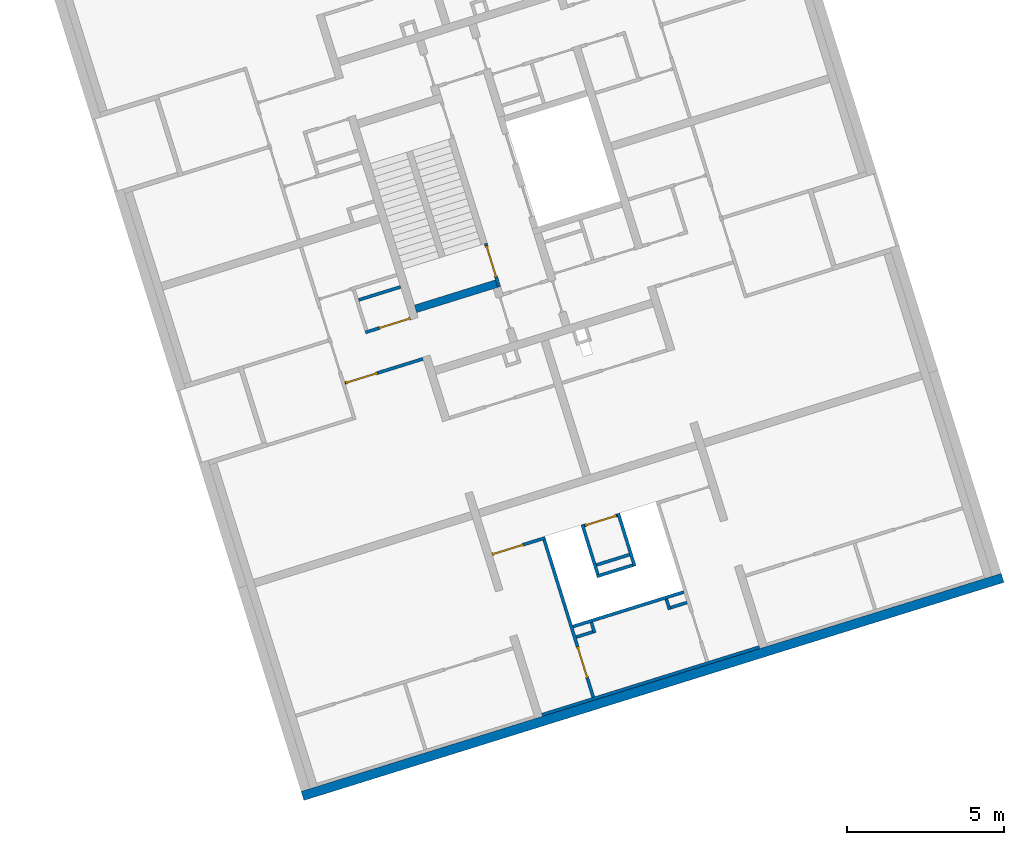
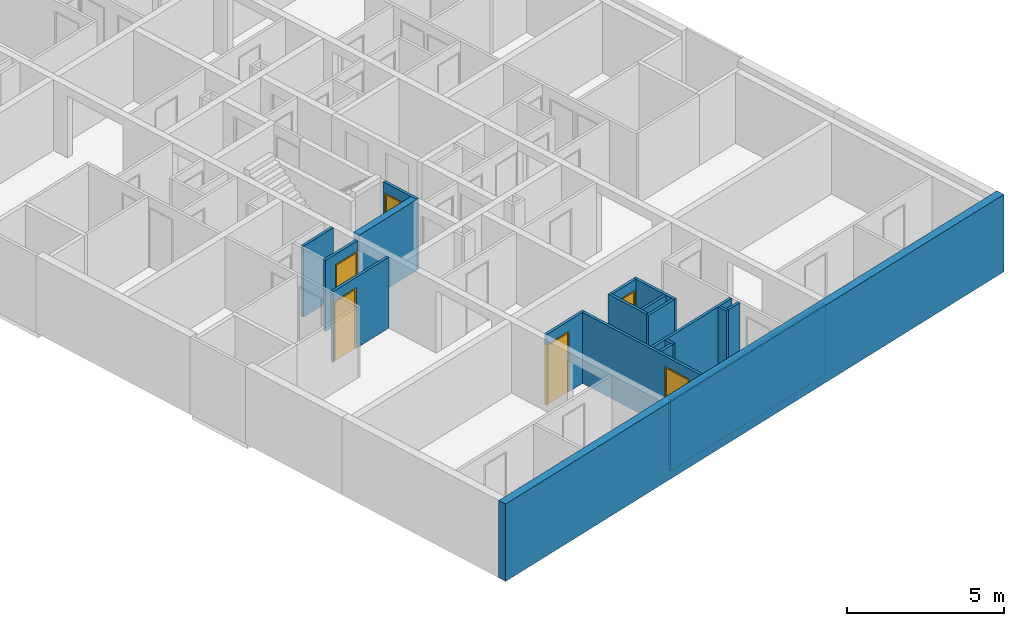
# One storey, part 2 of 12: 19 walls, 6 doors, 7 openings.
"""IFC4 building model written with IfcOpenShell, lengths in metres."""

from ifc_helpers import new_model, entity, si_unit, converted_unit, direction, frame, origin, place, context, subcontext, project, spatial, indexed_curve, outline, extrude, polygons, source, transform, mapped, material, constituent, constituent_set, type_object, type_shapes, element, fill, save


model = new_model("IFC4")

# Units and contexts
model_context = context("Model", 3, precision=1e-05, world=origin(), true_north=direction((6.12323399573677e-17, 1.0)))
body_context = subcontext(model_context, "Body", "Model", "MODEL_VIEW")
ifc_project = project(units=[si_unit("LENGTHUNIT", "METRE"), si_unit("AREAUNIT", "SQUARE_METRE"), converted_unit("PLANEANGLEUNIT", "DEGREE", entity("IfcPlaneAngleMeasure", 0.0174532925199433), si_unit("PLANEANGLEUNIT", "RADIAN"), dimensions=[0, 0, 0, 0, 0, 0, 0]), si_unit("VOLUMEUNIT", "CUBIC_METRE")], contexts=[model_context])

# Site, building, storey
site_placement = place(None, frame((13.1347999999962, 11.9886000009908, 0.0), z_axis=(0.0, 0.0, 1.0), x_axis=(0.954770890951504, 0.297342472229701, 0.0)))
site = spatial("IfcSite", under=ifc_project, at=site_placement, Name="Schiehaven", CompositionType="ELEMENT")
building_placement = place(site_placement, origin())
building = spatial("IfcBuilding", under=site, at=building_placement, Name="VORM huis", CompositionType="ELEMENT")
storey_placement = place(building_placement, frame((0.0, 0.0, 3.9)))
storey = spatial("IfcBuildingStorey", under=building, at=storey_placement, Name="01 eerste verdieping", CompositionType="ELEMENT", Elevation=3.9)

# Walls
ifc_material_1 = material(Name="ntb_ntb_ntb", Category="Miscellaneous")
wall_type_1 = type_object("IfcWallType", Name="Basic Wall:21_WA_gevel_binnenspouwwand 100mm_gen", PredefinedType="STANDARD")
wall_1_placement = place(storey_placement, frame((65.1250000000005, 0.424999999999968, 0.0)))
element("IfcWall", 1, at=wall_1_placement, inside=storey, type_object=wall_type_1, material=ifc_material_1, Name="Binnenspouwblad", ObjectType="Wand", PredefinedType="NOTDEFINED", context=body_context, shape_type="SweptSolid", body=[
    extrude(outline(indexed_curve([(7.24999999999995, 0.05), (3.39999654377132e-16, 0.05), (-3.39999654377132e-16, -0.05), (7.24999999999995, -0.05), (7.24999999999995, 0.05)], self_intersect=False)), origin(), (0.0, 0.0, 1.0), 2.75),
])
wall_type_2 = type_object("IfcWallType", Name="Basic Wall: 300mm_gen", PredefinedType="STANDARD")
wall_2_placement = place(storey_placement, frame((57.0750000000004, 0.225000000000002, 0.0)))
element("IfcWall", 2, at=wall_2_placement, inside=storey, type_object=wall_type_2, material=ifc_material_1, Name="Gevelwand", ObjectType="Wand", PredefinedType="NOTDEFINED", context=body_context, shape_type="SweptSolid", body=[
    extrude(outline(indexed_curve([(23.3500000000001, 0.15), (3.95309745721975e-16, 0.15), (-3.95309745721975e-16, -0.15), (23.3500000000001, -0.15), (23.3500000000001, 0.15)], self_intersect=False)), origin(), (0.0, 0.0, 1.0), 3.0),
])
wall_type_3 = type_object("IfcWallType", Name="Basic Wall:22_WA_afbouw_binnenwand 250mm_gen", PredefinedType="STANDARD")
wall_3_placement = place(storey_placement, frame((65.1250000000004, 13.965, 0.0)))
element("IfcWall", 3, at=wall_3_placement, inside=storey, type_object=wall_type_3, material=ifc_material_1, Name="Binnenwand", ObjectType="Wand", PredefinedType="NOTDEFINED", context=body_context, shape_type="SweptSolid", body=[
    extrude(outline(indexed_curve([(2.70000000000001, 0.125), (3.72202764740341e-16, 0.125), (-3.72202764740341e-16, -0.125), (2.70000000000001, -0.124999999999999), (2.70000000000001, 0.125)], self_intersect=False)), origin(), (0.0, 0.0, 1.0), 2.75),
])

# Wall, opening, door
wall_type_4 = type_object("IfcWallType", Name="Basic Wall:22_WA_afbouw_binnenwand 100mm_gen", PredefinedType="STANDARD")
wall_4_placement = place(storey_placement, frame((67.8750000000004, 13.84, 0.0), z_axis=(0.0, 0.0, 1.0), x_axis=(0.0, 1.0, 0.0)))
wall_4 = element("IfcWall", 4, at=wall_4_placement, inside=storey, type_object=wall_type_4, material=ifc_material_1, Name="Binnenwand", ObjectType="Wand", PredefinedType="NOTDEFINED", context=body_context, shape_type="Tessellation", body=[
    polygons([(1.44999999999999, -0.0500000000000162, -5.41433564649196e-16), (1.44999999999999, -0.0500000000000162, 2.75), (0.0, -0.0500000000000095, 2.75), (0.0, -0.0500000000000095, -5.41433564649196e-16), (0.324999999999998, -0.050000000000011, -5.41433564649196e-16), (0.324999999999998, -0.050000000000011, 2.34999999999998), (1.375, -0.0500000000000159, 2.34999999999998), (1.375, -0.0500000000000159, -5.41433564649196e-16), (1.44999999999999, 0.049999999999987, 2.75), (1.44999999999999, 0.049999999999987, -5.41433564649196e-16), (1.375, 0.0499999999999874, -5.41433564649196e-16), (1.37499999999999, 0.0499999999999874, 2.34999999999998), (0.324999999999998, 0.0499999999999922, 2.34999999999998), (0.324999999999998, 0.0499999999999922, -5.41433564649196e-16), (0.249999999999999, 0.0499999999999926, 0.0), (0.0, 0.0499999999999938, -5.41433564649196e-16), (0.0, 0.0499999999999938, 2.75), (0.249999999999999, 0.0499999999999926, 2.75)], [[[1, 2, 3, 4, 5, 6, 7, 8]], [[9, 10, 11, 12, 13, 14, 15, 16, 17, 18]], [[4, 16, 15, 14, 5]], [[2, 1, 10, 9]], [[3, 2, 9, 18, 17]], [[13, 6, 5, 14]], [[7, 12, 11, 8]], [[6, 13, 12, 7]], [[4, 3, 17, 16]], [[10, 1, 8, 11]]], closed=True),
])
opening_1_placement = place(wall_4_placement, frame((0.324999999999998, -0.0500000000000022, 0.0)))
opening_1 = element("IfcOpeningElement", 5, at=opening_1_placement, cuts=wall_4, Name="Vluchtdeur", PredefinedType="OPENING", context=body_context, shape_type="SweptSolid", body=[
    extrude(outline(indexed_curve([(2.34999999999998, 1.35358391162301e-15), (2.34999999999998, 1.05), (0.0, 1.05), (0.0, 1.35358391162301e-15), (2.34999999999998, 1.35358391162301e-15)], self_intersect=False)), frame((0.0, 0.0, 0.0), z_axis=(0.0, 1.0, 0.0), x_axis=(0.0, 0.0, 1.0)), (0.0, 0.0, 1.0), 0.1),
])
ifc_material_2 = material(Name="PD_a_binnenwandopeningen", Category="Miscellaneous")
ifc_constituent_1 = constituent(ifc_material_2, Name="PD_a_binnenwandopeningen", Category="Miscellaneous")
ifc_material_3 = material(Name="metaal_aluminium_ntb", Category="Miscellaneous")
ifc_constituent_2 = constituent(ifc_material_3, Name="metaal_aluminium_ntb", Category="Miscellaneous")
ifc_constituent_set_1 = constituent_set(constituents=[ifc_constituent_1, ifc_constituent_2])
ifc_constituent_3 = constituent(ifc_material_2, Name="PD_a_binnenwandopeningen", Category="Miscellaneous")
ifc_constituent_4 = constituent(ifc_material_3, Name="Panel", Category="Miscellaneous")
ifc_constituent_set_2 = constituent_set(constituents=[ifc_constituent_3, ifc_constituent_4])
door_type_1 = type_object("IfcDoorType", Name="32_DO_binnendeur enkel:binnendeur zelfsluitend 30min", OperationType="NOTDEFINED", PredefinedType="DOOR", material=ifc_constituent_set_2)
shared_shape_1 = source(origin(), body_context, "Body", "SweptSolid", [
    extrude(outline(indexed_curve([(0.475, -1.16249999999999), (0.525, -1.16249999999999), (0.525, 1.18749999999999), (-0.525, 1.18749999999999), (-0.525, -1.16249999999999), (-0.475, -1.16249999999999), (-0.475, 1.13749999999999), (0.475, 1.13749999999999), (0.475, -1.16249999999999)], self_intersect=False)), frame((0.525000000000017, 0.100000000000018, 1.16249999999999), z_axis=(0.0, -1.0, 0.0), x_axis=(1.0, 0.0, 0.0)), (0.0, 0.0, 1.0), 0.1),
    extrude(outline(indexed_curve([(-0.475, -0.025), (0.475, -0.025), (0.475, 0.025), (-0.475, 0.025), (-0.475, -0.025)], self_intersect=False)), frame((0.525000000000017, 0.0499999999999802, 0.0)), (0.0, 0.0, 1.0), 2.29999999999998),
])
type_shapes(door_type_1, [shared_shape_1])
door_1_placement = place(opening_1_placement, origin())
door_1 = element("IfcDoor", 6, at=door_1_placement, inside=storey, type_object=door_type_1, material=ifc_constituent_set_1, Name="Vluchtdeur", ObjectType="Deur", OperationType="NOTDEFINED", OverallHeight=2.34999999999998, OverallWidth=1.05, PredefinedType="DOOR", context=body_context, shape_type="MappedRepresentation", body=[
    mapped(shared_shape_1, transform((0.0, 0.0, 0.0), scale=1.0)),
])
fill(opening_1, door_1)

wall_5_placement = place(storey_placement, frame((64.8771642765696, 13.7249999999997, 0.0), z_axis=(0.0, 0.0, 1.0), x_axis=(-1.0, 0.0, 0.0)))
wall_5 = element("IfcWall", 7, at=wall_5_placement, inside=storey, type_object=wall_type_4, material=ifc_material_1, Name="Binnenwand", ObjectType="Wand", PredefinedType="NOTDEFINED", context=body_context, shape_type="Tessellation", body=[
    polygons([(1.5021642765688, -0.0500000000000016, 2.75), (1.40216427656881, -0.0500000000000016, 2.75), (2.73604181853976e-15, -0.0500000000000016, 2.75), (2.73604181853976e-15, -0.0500000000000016, 2.34999999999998), (1.05000000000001, -0.0500000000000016, 2.34999999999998), (1.05000000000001, -0.0500000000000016, -5.41433564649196e-16), (1.40216427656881, -0.0500000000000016, 0.0), (1.5021642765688, -0.0500000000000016, -5.41433564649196e-16), (1.45840274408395e-15, 0.0499999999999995, 2.75), (1.5021642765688, 0.0499999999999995, 2.75), (1.5021642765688, 0.0499999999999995, -5.41433564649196e-16), (1.05000000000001, 0.0499999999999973, -5.41433564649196e-16), (1.05000000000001, 0.0499999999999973, 2.34999999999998), (1.45840274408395e-15, 0.0499999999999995, 2.34999999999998)], [[[1, 2, 3, 4, 5, 6, 7, 8]], [[9, 10, 11, 12, 13, 14]], [[11, 8, 7, 6, 12]], [[3, 2, 1, 10, 9]], [[3, 9, 14, 4]], [[1, 8, 11, 10]], [[5, 13, 12, 6]], [[13, 5, 4, 14]]], closed=True),
])
opening_2_placement = place(wall_5_placement, frame((0.0, -0.0499999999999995, 0.0)))
opening_2 = element("IfcOpeningElement", 8, at=opening_2_placement, cuts=wall_5, Name="Binnendeur", PredefinedType="OPENING", context=body_context, shape_type="SweptSolid", body=[
    extrude(outline(indexed_curve([(2.34999999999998, 1.05), (0.0, 1.05), (0.0, 0.0), (2.34999999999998, 0.0), (2.34999999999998, 1.05)], self_intersect=False)), frame((0.0, 0.0, 0.0), z_axis=(0.0, 1.0, 0.0), x_axis=(0.0, 0.0, 1.0)), (0.0, 0.0, 1.0), 0.1),
])
ifc_constituent_5 = constituent(ifc_material_2, Name="PD_a_binnenwandopeningen", Category="Miscellaneous")
ifc_constituent_6 = constituent(ifc_material_3, Name="metaal_aluminium_ntb", Category="Miscellaneous")
ifc_constituent_set_3 = constituent_set(constituents=[ifc_constituent_5, ifc_constituent_6])
ifc_constituent_7 = constituent(ifc_material_2, Name="PD_a_binnenwandopeningen", Category="Miscellaneous")
ifc_constituent_8 = constituent(ifc_material_3, Name="Panel", Category="Miscellaneous")
ifc_constituent_set_4 = constituent_set(constituents=[ifc_constituent_7, ifc_constituent_8])
door_type_2 = type_object("IfcDoorType", Name="32_DO_binnendeur enkel:binnendeur", OperationType="REVOLVING", PredefinedType="DOOR", material=ifc_constituent_set_4)
shared_shape_2 = source(origin(), body_context, "Body", "SweptSolid", [
    extrude(outline(indexed_curve([(-1.16249999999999, -0.525000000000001), (1.18749999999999, -0.525), (1.18749999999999, 0.525), (-1.16249999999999, 0.525), (-1.16249999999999, 0.475), (1.13749999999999, 0.475), (1.13749999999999, -0.475), (-1.16249999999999, -0.475), (-1.16249999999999, -0.525000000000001)], self_intersect=False)), frame((0.525000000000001, 0.0, 1.16249999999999), z_axis=(0.0, 1.0, 0.0), x_axis=(0.0, 0.0, 1.0)), (0.0, 0.0, 1.0), 0.1),
    extrude(outline(indexed_curve([(-0.025, -0.475), (0.025, -0.475), (0.025, 0.475), (-0.025, 0.475), (-0.025, -0.475)], self_intersect=False)), frame((0.525000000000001, 0.0499999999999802, 0.0), z_axis=(0.0, 0.0, 1.0), x_axis=(0.0, 1.0, 0.0)), (0.0, 0.0, 1.0), 2.29999999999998),
])
type_shapes(door_type_2, [shared_shape_2])
door_2_placement = place(opening_2_placement, origin())
door_2 = element("IfcDoor", 9, at=door_2_placement, inside=storey, type_object=door_type_2, material=ifc_constituent_set_3, Name="Binnendeur", ObjectType="Deur", OperationType="REVOLVING", OverallHeight=2.34999999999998, OverallWidth=1.05, PredefinedType="DOOR", context=body_context, shape_type="MappedRepresentation", body=[
    mapped(shared_shape_2, transform((0.0, 0.0, 0.0), scale=1.0)),
])
fill(opening_2, door_2)

wall_6_placement = place(storey_placement, frame((62.2750000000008, 12.3749999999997, 0.0)))
wall_6 = element("IfcWall", 10, at=wall_6_placement, inside=storey, type_object=wall_type_4, material=ifc_material_1, Name="Binnenwand", ObjectType="Wand", PredefinedType="NOTDEFINED", context=body_context, shape_type="Tessellation", body=[
    polygons([(1.07500000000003, -0.0500000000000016, 2.34999999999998), (1.07500000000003, -0.0500000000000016, 0.0), (2.59999999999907, -0.0500000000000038, 0.0), (2.59999999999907, -0.0500000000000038, 2.75), (3.14031467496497e-15, -0.0500000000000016, 2.75), (3.14031467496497e-15, -0.0500000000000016, 0.0), (0.0250000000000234, -0.0500000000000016, 0.0), (0.0250000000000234, -0.0500000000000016, 2.34999999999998), (2.59999999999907, 0.0499999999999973, 0.0), (1.07500000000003, 0.0499999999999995, 0.0), (1.07500000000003, 0.0499999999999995, 2.34999999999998), (0.0250000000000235, 0.0499999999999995, 2.34999999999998), (0.0250000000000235, 0.0499999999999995, 0.0), (3.1657939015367e-15, 0.0499999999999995, 0.0), (3.1657939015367e-15, 0.0499999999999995, 2.75), (2.59999999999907, 0.0499999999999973, 2.75)], [[[1, 2, 3, 4, 5, 6, 7, 8]], [[9, 10, 11, 12, 13, 14, 15, 16]], [[7, 6, 14, 13]], [[4, 3, 9, 16]], [[5, 4, 16, 15]], [[6, 5, 15, 14]], [[13, 12, 8, 7]], [[11, 10, 2, 1]], [[12, 11, 1, 8]], [[3, 2, 10, 9]]], closed=True),
])
opening_3_placement = place(wall_6_placement, frame((0.0250000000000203, -0.0499999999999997, 0.0)))
opening_3 = element("IfcOpeningElement", 11, at=opening_3_placement, cuts=wall_6, Name="Binnendeur", PredefinedType="OPENING", context=body_context, shape_type="SweptSolid", body=[
    extrude(outline(indexed_curve([(2.34999999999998, 6.89765423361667e-32), (2.34999999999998, 1.05), (0.0, 1.05), (0.0, 6.89765423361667e-32), (2.34999999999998, 6.89765423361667e-32)], self_intersect=False)), frame((0.0, 0.0, 0.0), z_axis=(0.0, 1.0, 0.0), x_axis=(0.0, 0.0, 1.0)), (0.0, 0.0, 1.0), 0.1),
])
ifc_constituent_9 = constituent(ifc_material_2, Name="PD_a_binnenwandopeningen", Category="Miscellaneous")
ifc_constituent_10 = constituent(ifc_material_3, Name="metaal_aluminium_ntb", Category="Miscellaneous")
ifc_constituent_set_5 = constituent_set(constituents=[ifc_constituent_9, ifc_constituent_10])
ifc_constituent_11 = constituent(ifc_material_2, Name="PD_a_binnenwandopeningen", Category="Miscellaneous")
ifc_constituent_12 = constituent(ifc_material_3, Name="Panel", Category="Miscellaneous")
ifc_constituent_set_6 = constituent_set(constituents=[ifc_constituent_11, ifc_constituent_12])
door_type_3 = type_object("IfcDoorType", Name="32_DO_binnendeur enkel:binnendeur", OperationType="REVOLVING", PredefinedType="DOOR", material=ifc_constituent_set_6)
shared_shape_3 = source(origin(), body_context, "Body", "SweptSolid", [
    extrude(outline(indexed_curve([(0.475, -1.16249999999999), (0.525, -1.16249999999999), (0.525, 1.18749999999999), (-0.525, 1.18749999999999), (-0.525, -1.16249999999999), (-0.475, -1.16249999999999), (-0.475, 1.13749999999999), (0.475, 1.13749999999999), (0.475, -1.16249999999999)], self_intersect=False)), frame((0.525000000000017, 0.100000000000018, 1.16249999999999), z_axis=(0.0, -1.0, 0.0), x_axis=(1.0, 0.0, 0.0)), (0.0, 0.0, 1.0), 0.1),
    extrude(outline(indexed_curve([(-0.475, -0.025), (0.475, -0.025), (0.475, 0.025), (-0.475, 0.025), (-0.475, -0.025)], self_intersect=False)), frame((0.525000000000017, 0.0499999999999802, 0.0)), (0.0, 0.0, 1.0), 2.29999999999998),
])
type_shapes(door_type_3, [shared_shape_3])
door_3_placement = place(opening_3_placement, origin())
door_3 = element("IfcDoor", 12, at=door_3_placement, inside=storey, type_object=door_type_3, material=ifc_constituent_set_5, Name="Binnendeur", ObjectType="Deur", OperationType="REVOLVING", OverallHeight=2.34999999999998, OverallWidth=1.05, PredefinedType="DOOR", context=body_context, shape_type="MappedRepresentation", body=[
    mapped(shared_shape_3, transform((0.0, 0.0, 0.0), scale=1.0)),
])
fill(opening_3, door_3)

# Walls
wall_7_placement = place(storey_placement, frame((63.4750000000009, 14.7749999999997, 0.0)))
element("IfcWall", 13, at=wall_7_placement, inside=storey, type_object=wall_type_4, material=ifc_material_1, Name="Binnenwand", ObjectType="Wand", PredefinedType="NOTDEFINED", context=body_context, shape_type="SweptSolid", body=[
    extrude(outline(indexed_curve([(1.39999999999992, 0.0499999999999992), (-3.77105116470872e-16, 0.0499999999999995), (3.77105116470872e-16, -0.0499999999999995), (1.39999999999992, -0.0499999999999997), (1.39999999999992, 0.0499999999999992)], self_intersect=False)), origin(), (0.0, 0.0, 1.0), 2.75),
])
wall_8_placement = place(storey_placement, frame((66.9000000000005, 2.81500000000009, 0.0)))
element("IfcWall", 14, at=wall_8_placement, inside=storey, type_object=wall_type_4, material=ifc_material_1, Name="Binnenwand", ObjectType="Wand", PredefinedType="NOTDEFINED", context=body_context, shape_type="SweptSolid", body=[
    extrude(outline(indexed_curve([(3.69999999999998, 0.05), (-1.46499921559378e-16, 0.05), (1.46499921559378e-16, -0.05), (3.69999999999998, -0.05), (3.69999999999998, 0.05)], self_intersect=False)), origin(), (0.0, 0.0, 1.0), 2.75),
])
wall_9_placement = place(storey_placement, frame((70.0, 2.41500000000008, 0.0), z_axis=(0.0, 0.0, 1.0), x_axis=(0.0, 1.0, 0.0)))
element("IfcWall", 15, at=wall_9_placement, inside=storey, type_object=wall_type_4, material=ifc_material_1, Name="Binnenwand", ObjectType="Wand", PredefinedType="NOTDEFINED", context=body_context, shape_type="SweptSolid", body=[
    extrude(outline(indexed_curve([(0.35, 0.0499999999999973), (0.0, 0.0499999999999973), (0.0, -0.0499999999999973), (0.35, -0.0499999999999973), (0.35, 0.0499999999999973)], self_intersect=False)), origin(), (0.0, 0.0, 1.0), 2.75),
])
wall_10_placement = place(storey_placement, frame((67.5000000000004, 2.41500000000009, 0.0), z_axis=(0.0, 0.0, 1.0), x_axis=(0.0, 1.0, 0.0)))
element("IfcWall", 16, at=wall_10_placement, inside=storey, type_object=wall_type_4, material=ifc_material_1, Name="Binnenwand", ObjectType="Wand", PredefinedType="NOTDEFINED", context=body_context, shape_type="SweptSolid", body=[
    extrude(outline(indexed_curve([(0.349999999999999, 0.0499999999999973), (0.0, 0.0499999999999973), (0.0, -0.0499999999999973), (0.349999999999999, -0.0499999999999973), (0.349999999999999, 0.0499999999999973)], self_intersect=False)), origin(), (0.0, 0.0, 1.0), 2.75),
])

# Wall, opening, door
wall_11_placement = place(storey_placement, frame((69.3000000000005, 5.77500000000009, 0.0), z_axis=(0.0, 0.0, 1.0), x_axis=(-1.0, 0.0, 0.0)))
wall_11 = element("IfcWall", 17, at=wall_11_placement, inside=storey, type_object=wall_type_4, material=ifc_material_1, Name="Binnenwand", ObjectType="Wand", PredefinedType="NOTDEFINED", context=body_context, shape_type="Tessellation", body=[
    polygons([(1.09999999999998, -0.0499999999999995, 2.75), (5.05822449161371e-17, -0.0499999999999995, 2.75), (5.05822449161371e-17, -0.0499999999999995, 0.0), (0.025000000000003, -0.0499999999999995, 0.0), (0.025000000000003, -0.0499999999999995, 2.34999999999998), (1.07500000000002, -0.0499999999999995, 2.34999999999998), (1.07500000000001, -0.0499999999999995, 0.0), (1.09999999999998, -0.0499999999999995, 0.0), (-2.47726017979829e-16, 0.0500000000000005, 2.75), (1.09999999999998, 0.0500000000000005, 2.75), (1.09999999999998, 0.0500000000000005, 0.0), (1.07500000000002, 0.0500000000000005, 0.0), (1.07500000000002, 0.0500000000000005, 2.34999999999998), (0.0250000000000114, 0.0500000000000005, 2.34999999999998), (0.0250000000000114, 0.0500000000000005, 0.0), (-2.47726017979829e-16, 0.0500000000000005, 0.0)], [[[1, 2, 3, 4, 5, 6, 7, 8]], [[9, 10, 11, 12, 13, 14, 15, 16]], [[3, 16, 15, 4]], [[2, 1, 10, 9]], [[1, 8, 11, 10]], [[3, 2, 9, 16]], [[14, 5, 4, 15]], [[5, 14, 13, 6]], [[6, 13, 12, 7]], [[11, 8, 7, 12]]], closed=True),
])
opening_4_placement = place(wall_11_placement, frame((1.07500000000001, 0.0499999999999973, 0.0)))
opening_4 = element("IfcOpeningElement", 18, at=opening_4_placement, cuts=wall_11, Name="Binnendeur", PredefinedType="OPENING", context=body_context, shape_type="SweptSolid", body=[
    extrude(outline(indexed_curve([(2.34999999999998, 1.05), (0.0, 1.05), (0.0, 0.0), (2.34999999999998, 0.0), (2.34999999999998, 1.05)], self_intersect=False)), frame((0.0, 0.0, 0.0), z_axis=(0.0, -1.0, 0.0), x_axis=(0.0, 0.0, 1.0)), (0.0, 0.0, 1.0), 0.1),
])
ifc_constituent_13 = constituent(ifc_material_2, Name="PD_a_binnenwandopeningen", Category="Miscellaneous")
ifc_constituent_14 = constituent(ifc_material_3, Name="metaal_aluminium_ntb", Category="Miscellaneous")
ifc_constituent_set_7 = constituent_set(constituents=[ifc_constituent_13, ifc_constituent_14])
door_4_placement = place(opening_4_placement, frame((0.0, 0.0, 0.0), z_axis=(0.0, 0.0, 1.0), x_axis=(-1.0, 0.0, 0.0)))
door_4 = element("IfcDoor", 19, at=door_4_placement, inside=storey, type_object=door_type_2, material=ifc_constituent_set_7, Name="Binnendeur", ObjectType="Deur", OperationType="REVOLVING", OverallHeight=2.34999999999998, OverallWidth=1.05, PredefinedType="DOOR", context=body_context, shape_type="MappedRepresentation", body=[
    mapped(shared_shape_2, transform((0.0, 0.0, 0.0), scale=1.0)),
])
fill(opening_4, door_4)

# Walls
wall_12_placement = place(storey_placement, frame((69.3500000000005, 4.06500000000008, 0.0), z_axis=(0.0, 0.0, 1.0), x_axis=(0.0, 1.0, 0.0)))
element("IfcWall", 20, at=wall_12_placement, inside=storey, type_object=wall_type_4, material=ifc_material_1, Name="Binnenwand", ObjectType="Wand", PredefinedType="NOTDEFINED", context=body_context, shape_type="SweptSolid", body=[
    extrude(outline(indexed_curve([(1.76000000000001, 0.0499999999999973), (0.0, 0.0499999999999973), (0.0, -0.0499999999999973), (1.76000000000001, -0.0499999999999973), (1.76000000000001, 0.0499999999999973)], self_intersect=False)), origin(), (0.0, 0.0, 1.0), 2.75),
])
wall_13_placement = place(storey_placement, frame((66.9000000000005, 2.46500000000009, 0.0)))
element("IfcWall", 21, at=wall_13_placement, inside=storey, type_object=wall_type_4, material=ifc_material_1, Name="Binnenwand", ObjectType="Wand", PredefinedType="NOTDEFINED", context=body_context, shape_type="SweptSolid", body=[
    extrude(outline(indexed_curve([(0.549999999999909, 0.0500000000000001), (-1.56414140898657e-16, 0.05), (1.56414140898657e-16, -0.0499999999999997), (0.54999999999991, -0.0499999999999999), (0.549999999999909, 0.0500000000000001)], self_intersect=False)), origin(), (0.0, 0.0, 1.0), 2.75),
])

# Wall, opening, door
wall_14_placement = place(storey_placement, frame((65.1250000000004, 5.77500000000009, 0.0)))
wall_14 = element("IfcWall", 22, at=wall_14_placement, inside=storey, type_object=wall_type_4, material=ifc_material_1, Name="Binnenwand", ObjectType="Wand", PredefinedType="NOTDEFINED", context=body_context, shape_type="Tessellation", body=[
    polygons([(1.77500000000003, -0.0499999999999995, 2.75), (1.67500000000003, -0.0500000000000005, 2.75), (-1.22633560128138e-14, -0.0499999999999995, 2.75), (-1.22633560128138e-14, -0.0499999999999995, 2.34999999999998), (1.04999999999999, -0.0500000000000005, 2.34999999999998), (1.04999999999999, -0.0500000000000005, 0.0), (1.67500000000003, -0.0500000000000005, 5.41433564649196e-16), (1.77500000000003, -0.0499999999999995, 0.0), (-1.26288807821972e-14, 0.0500000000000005, 2.75), (1.77500000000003, 0.0500000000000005, 2.75), (1.77500000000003, 0.0500000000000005, 0.0), (1.04999999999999, 0.0499999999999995, 0.0), (1.04999999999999, 0.0499999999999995, 2.34999999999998), (-1.26288807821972e-14, 0.0500000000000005, 2.34999999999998)], [[[1, 2, 3, 4, 5, 6, 7, 8]], [[9, 10, 11, 12, 13, 14]], [[11, 8, 7, 6, 12]], [[3, 2, 1, 10, 9]], [[3, 9, 14, 4]], [[1, 8, 11, 10]], [[5, 13, 12, 6]], [[13, 5, 4, 14]]], closed=True),
])
opening_5_placement = place(wall_14_placement, frame((0.0, -0.05, 0.0)))
opening_5 = element("IfcOpeningElement", 23, at=opening_5_placement, cuts=wall_14, Name="Binnendeur", PredefinedType="OPENING", context=body_context, shape_type="SweptSolid", body=[
    extrude(outline(indexed_curve([(2.34999999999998, 1.05), (0.0, 1.05), (0.0, 1.30022810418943e-31), (2.34999999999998, 1.30022810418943e-31), (2.34999999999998, 1.05)], self_intersect=False)), frame((0.0, 0.0, 0.0), z_axis=(0.0, 1.0, 0.0), x_axis=(0.0, 0.0, 1.0)), (0.0, 0.0, 1.0), 0.1),
])
ifc_constituent_15 = constituent(ifc_material_2, Name="PD_a_binnenwandopeningen", Category="Miscellaneous")
ifc_constituent_16 = constituent(ifc_material_3, Name="metaal_aluminium_ntb", Category="Miscellaneous")
ifc_constituent_set_8 = constituent_set(constituents=[ifc_constituent_15, ifc_constituent_16])
door_5_placement = place(opening_5_placement, origin())
door_5 = element("IfcDoor", 24, at=door_5_placement, inside=storey, type_object=door_type_2, material=ifc_constituent_set_8, Name="Binnendeur", ObjectType="Deur", OperationType="REVOLVING", OverallHeight=2.34999999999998, OverallWidth=1.05, PredefinedType="DOOR", context=body_context, shape_type="MappedRepresentation", body=[
    mapped(shared_shape_2, transform((0.0, 0.0, 0.0), scale=1.0)),
])
fill(opening_5, door_5)

# Wall, openings, door
wall_15_placement = place(storey_placement, frame((66.8500000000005, 5.72500000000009, 0.0), z_axis=(0.0, 0.0, 1.0), x_axis=(0.0, -1.0, 0.0)))
wall_15 = element("IfcWall", 25, at=wall_15_placement, inside=storey, type_object=wall_type_4, material=ifc_material_1, Name="Binnenwand", ObjectType="Wand", PredefinedType="NOTDEFINED", context=body_context, shape_type="Tessellation", body=[
    polygons([(0.0, -0.050000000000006, 0.0), (3.56, -0.050000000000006, 0.0), (3.56, -0.050000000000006, 2.34999999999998), (4.61, -0.050000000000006, 2.34999999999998), (4.61, -0.050000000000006, 0.0), (5.25000000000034, -0.050000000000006, 0.0), (5.25000000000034, -0.050000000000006, 2.75), (0.0, -0.050000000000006, 2.75), (3.56, 0.0499999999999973, 2.34999999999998), (3.56, 0.0499999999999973, 0.0), (3.31, 0.0499999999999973, 5.41433564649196e-16), (3.21, 0.0499999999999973, 5.41433564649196e-16), (2.96, 0.0499999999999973, 5.41433564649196e-16), (2.86, 0.0499999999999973, 5.41433564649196e-16), (0.0, 0.0499999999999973, 0.0), (0.0, 0.0499999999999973, 2.75), (2.86, 0.0499999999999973, 2.75), (2.96, 0.0499999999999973, 2.75), (3.21, 0.0499999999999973, 2.75), (3.31, 0.0499999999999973, 2.75), (5.25000000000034, 0.0499999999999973, 2.75), (5.25000000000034, 0.0499999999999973, 0.0), (4.61, 0.0499999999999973, 0.0), (4.61, 0.0499999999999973, 2.34999999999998)], [[[1, 2, 3, 4, 5, 6, 7, 8]], [[9, 10, 11, 12, 13, 14, 15, 16, 17, 18, 19, 20, 21, 22, 23, 24]], [[15, 14, 13, 12, 11, 10, 2, 1]], [[7, 6, 22, 21]], [[8, 7, 21, 20, 19, 18, 17, 16]], [[1, 8, 16, 15]], [[5, 4, 24, 23]], [[3, 2, 10, 9]], [[4, 3, 9, 24]], [[23, 22, 6, 5]]], closed=True),
])
opening_6_placement = place(wall_15_placement, frame((4.61, 0.050000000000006, 0.0)))
opening_6 = element("IfcOpeningElement", 26, at=opening_6_placement, cuts=wall_15, Name="Binnendeur", PredefinedType="OPENING", context=body_context, shape_type="SweptSolid", body=[
    extrude(outline(indexed_curve([(2.34999999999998, 0.0), (2.34999999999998, 1.05), (0.0, 1.05), (0.0, 0.0), (2.34999999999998, 0.0)], self_intersect=False)), frame((0.0, 0.0, 0.0), z_axis=(0.0, -1.0, 0.0), x_axis=(0.0, 0.0, 1.0)), (0.0, 0.0, 1.0), 0.1),
])
opening_7_placement = place(wall_15_placement, frame((5.72500000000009, -66.8500000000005, 0.0), z_axis=(0.0, 0.0, 1.0), x_axis=(0.0, 1.0, 0.0)))
element("IfcOpeningElement", 27, at=opening_7_placement, cuts=wall_15, Name="Binnendeur", PredefinedType="OPENING", context=body_context, shape_type="SweptSolid", body=[
    extrude(outline(indexed_curve([(-1.17499999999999, -0.525000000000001), (1.17499999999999, -0.525000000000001), (1.17499999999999, 0.525), (-1.17499999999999, 0.525), (-1.17499999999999, -0.525000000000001)], self_intersect=False)), frame((65.3760000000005, 1.64000000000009, 1.17499999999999), z_axis=(1.0, 0.0, 0.0), x_axis=(0.0, 0.0, -1.0)), (0.0, 0.0, 1.0), 3.048),
])
ifc_constituent_17 = constituent(ifc_material_2, Name="PD_a_binnenwandopeningen", Category="Miscellaneous")
ifc_constituent_18 = constituent(ifc_material_3, Name="metaal_aluminium_ntb", Category="Miscellaneous")
ifc_constituent_set_9 = constituent_set(constituents=[ifc_constituent_17, ifc_constituent_18])
door_6_placement = place(opening_6_placement, frame((0.0, 0.0, 0.0), z_axis=(0.0, 0.0, 1.0), x_axis=(-1.0, 0.0, 0.0)))
door_6 = element("IfcDoor", 28, at=door_6_placement, inside=storey, type_object=door_type_3, material=ifc_constituent_set_9, Name="Binnendeur", ObjectType="Deur", OperationType="REVOLVING", OverallHeight=2.34999999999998, OverallWidth=1.05, PredefinedType="DOOR", context=body_context, shape_type="MappedRepresentation", body=[
    mapped(shared_shape_3, transform((0.0, 0.0, 0.0), scale=1.0)),
])
fill(opening_6, door_6)

# Walls
wall_16_placement = place(storey_placement, frame((68.1000000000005, 4.11500000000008, 0.0)))
element("IfcWall", 29, at=wall_16_placement, inside=storey, type_object=wall_type_4, material=ifc_material_1, Name="Binnenwand", ObjectType="Wand", PredefinedType="NOTDEFINED", context=body_context, shape_type="SweptSolid", body=[
    extrude(outline(indexed_curve([(1.19999999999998, 0.0500000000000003), (-1.46499921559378e-16, 0.05), (1.46499921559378e-16, -0.05), (1.19999999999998, -0.0499999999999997), (1.19999999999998, 0.0500000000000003)], self_intersect=False)), origin(), (0.0, 0.0, 1.0), 2.75),
])
wall_17_placement = place(storey_placement, frame((68.1500000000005, 5.82500000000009, 0.0), z_axis=(0.0, 0.0, 1.0), x_axis=(0.0, -1.0, 0.0)))
element("IfcWall", 30, at=wall_17_placement, inside=storey, type_object=wall_type_4, material=ifc_material_1, Name="Binnenwand", ObjectType="Wand", PredefinedType="NOTDEFINED", context=body_context, shape_type="SweptSolid", body=[
    extrude(outline(indexed_curve([(1.66000000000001, 0.0499999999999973), (0.0, 0.0499999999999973), (0.0, -0.0499999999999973), (1.66000000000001, -0.0499999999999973), (1.66000000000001, 0.0499999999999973)], self_intersect=False)), origin(), (0.0, 0.0, 1.0), 2.75),
])
wall_18_placement = place(storey_placement, frame((68.2000000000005, 4.46500000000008, 0.0)))
element("IfcWall", 31, at=wall_18_placement, inside=storey, type_object=wall_type_4, material=ifc_material_1, Name="Binnenwand", ObjectType="Wand", PredefinedType="NOTDEFINED", context=body_context, shape_type="SweptSolid", body=[
    extrude(outline(indexed_curve([(1.09999999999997, 0.05), (-1.46499921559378e-16, 0.05), (1.46499921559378e-16, -0.05), (1.09999999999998, -0.05), (1.09999999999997, 0.05)], self_intersect=False)), origin(), (0.0, 0.0, 1.0), 2.75),
])
wall_19_placement = place(storey_placement, frame((70.0500000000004, 2.46500000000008, 0.0)))
element("IfcWall", 32, at=wall_19_placement, inside=storey, type_object=wall_type_4, material=ifc_material_1, Name="Binnenwand", ObjectType="Wand", PredefinedType="NOTDEFINED", context=body_context, shape_type="SweptSolid", body=[
    extrude(outline(indexed_curve([(0.550000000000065, 0.0500000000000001), (-1.56414140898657e-16, 0.05), (1.56414140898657e-16, -0.05), (0.550000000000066, -0.0499999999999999), (0.550000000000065, 0.0500000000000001)], self_intersect=False)), origin(), (0.0, 0.0, 1.0), 2.75),
])

save(model, "model.ifc")
